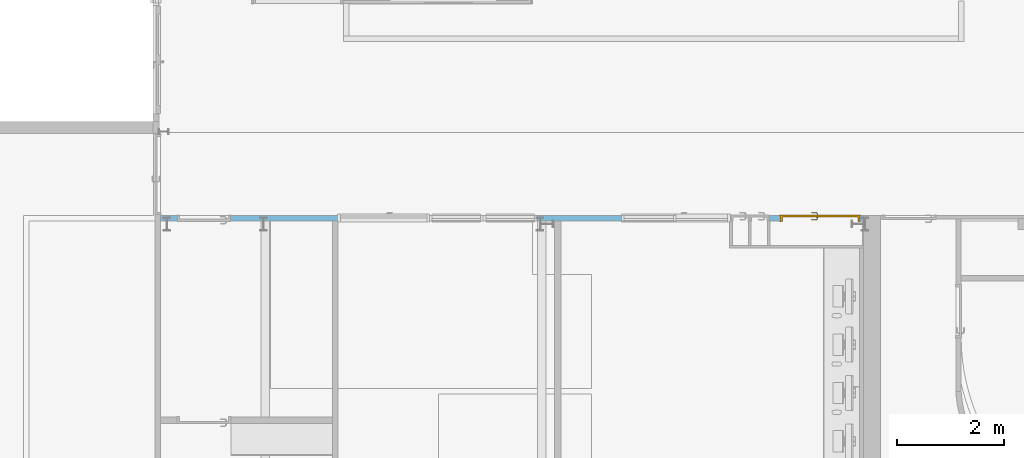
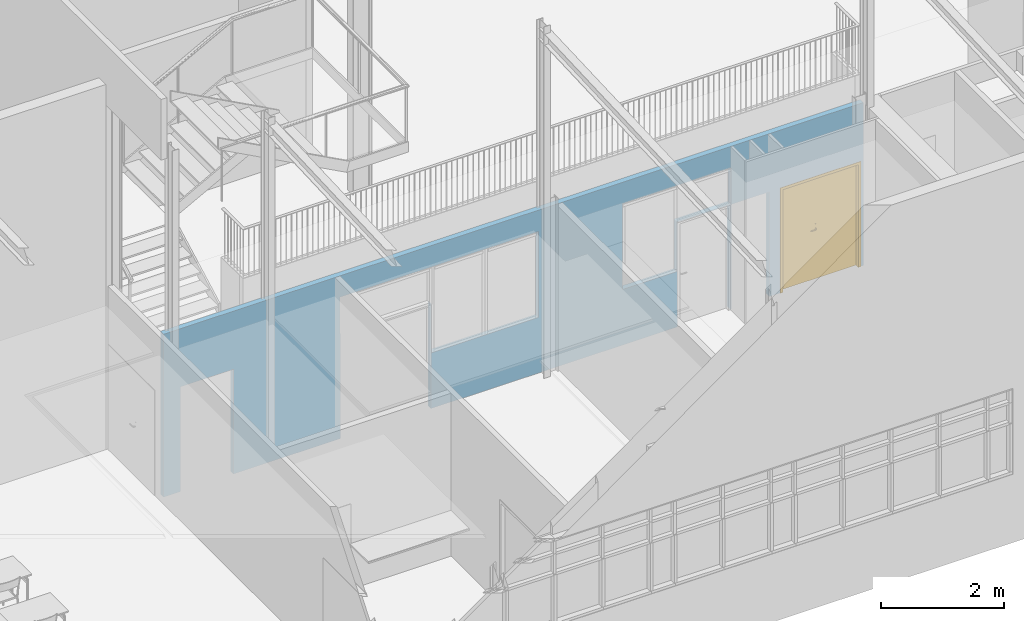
# One storey, part 38 of 137: 1 door, 10 openings, plus 1 element that does not belong to this part.
"""IFC2X3 building model written with IfcOpenShell, lengths in centimetres."""

from ifc_helpers import new_model, entity, si_unit, converted_unit, derived_unit, direction, frame, frame_2d, origin, place, context, subcontext, project, spatial, polyline, rectangle, outline, extrude, clip, bounded_halfspace, faceted_brep, source, transform, mapped, material, material_list, layer, layer_set, layer_usage, type_object, type_shapes, element, fill, save


model = new_model("IFC2X3")

# Units and contexts
model_context = context("Model", 3, precision=0.001, world=origin(), true_north=direction((6.12303176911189e-17, 1.0)))
body_context = subcontext(model_context, "Body", "Model", "MODEL_VIEW")
ifc_project = project(units=[si_unit("LENGTHUNIT", "METRE", prefix="CENTI"), si_unit("AREAUNIT", "SQUARE_METRE"), si_unit("VOLUMEUNIT", "CUBIC_METRE"), converted_unit("PLANEANGLEUNIT", "DEGREE", entity("IfcRatioMeasure", 0.0174532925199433), si_unit("PLANEANGLEUNIT", "RADIAN"), dimensions=[0, 0, 0, 0, 0, 0, 0]), si_unit("MASSUNIT", "GRAM", prefix="KILO"), si_unit("TIMEUNIT", "SECOND"), si_unit("FREQUENCYUNIT", "HERTZ"), si_unit("THERMODYNAMICTEMPERATUREUNIT", "DEGREE_CELSIUS"), derived_unit("THERMALTRANSMITTANCEUNIT", [(si_unit("MASSUNIT", "GRAM", prefix="KILO"), 1), (si_unit("THERMODYNAMICTEMPERATUREUNIT", "KELVIN"), -1), (si_unit("TIMEUNIT", "SECOND"), -3)]), derived_unit("VOLUMETRICFLOWRATEUNIT", [(si_unit("LENGTHUNIT", "METRE"), 3), (si_unit("TIMEUNIT", "SECOND"), -1)]), si_unit("ELECTRICCURRENTUNIT", "AMPERE"), si_unit("ELECTRICVOLTAGEUNIT", "VOLT"), si_unit("POWERUNIT", "WATT"), si_unit("FORCEUNIT", "NEWTON", prefix="KILO"), si_unit("ILLUMINANCEUNIT", "LUX"), si_unit("LUMINOUSFLUXUNIT", "LUMEN"), si_unit("LUMINOUSINTENSITYUNIT", "CANDELA"), derived_unit("USERDEFINED", [(si_unit("MASSUNIT", "GRAM", prefix="KILO"), -1), (si_unit("LENGTHUNIT", "METRE"), -2), (si_unit("TIMEUNIT", "SECOND"), 3), (si_unit("LUMINOUSFLUXUNIT", "LUMEN"), 1)]), derived_unit("LINEARVELOCITYUNIT", [(si_unit("LENGTHUNIT", "METRE"), 1), (si_unit("TIMEUNIT", "SECOND"), -1)]), si_unit("PRESSUREUNIT", "PASCAL"), derived_unit("USERDEFINED", [(si_unit("LENGTHUNIT", "METRE"), -2), (si_unit("MASSUNIT", "GRAM", prefix="KILO"), 1), (si_unit("TIMEUNIT", "SECOND"), -2)])], contexts=[model_context])

# Site, building, storey
site_placement = place(None, frame((8.62739174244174, -249.285249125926, 0.0)))
site = spatial("IfcSite", under=ifc_project, at=site_placement, Name="Default", CompositionType="ELEMENT")
building_placement = place(site_placement, origin())
building = spatial("IfcBuilding", under=site, at=building_placement, CompositionType="ELEMENT")
storey_placement = place(building_placement, origin())
storey = spatial("IfcBuildingStorey", under=building, at=storey_placement, Name="RDC", CompositionType="ELEMENT", Elevation=-8.82465566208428e-11)

# Wall, openings, door
ifc_material_1 = material(Name="Plâtre EXISTANT")
ifc_layer = layer(ifc_material_1, 10.0)
ifc_layer_set = layer_set([ifc_layer], Name="Mur de base:PLA EXISTANT 10")
ifc_layer_usage = layer_usage(ifc_layer_set, "AXIS2", "NEGATIVE", 5.0)
wall_type = type_object("IfcWallType", Name="Mur de base:PLA EXISTANT 10", PredefinedType="STANDARD", material=ifc_layer_set)
wall_placement = place(storey_placement, frame((2162.90482780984, 773.0, 0.0), z_axis=(0.0, 0.0, 1.0), x_axis=(-1.0, 0.0, 0.0)))
wall = element("IfcWallStandardCase", 1, at=wall_placement, inside=storey, type_object=wall_type, material=ifc_layer_usage, Name="Mur de base:PLA EXISTANT 10", ObjectType="Mur de base:PLA EXISTANT 10", context=body_context, shape_type="Clipping", body=[
    clip(extrude(rectangle(XDim=1308.9048278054, YDim=9.99999999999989, at=frame_2d((654.4524139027, -1.82076576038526e-14), x_axis=(-1.0, 0.0))), origin(), (0.0, 0.0, 1.0), 322.000000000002), bounded_halfspace(frame((0.0, -5.0, 322.0), z_axis=(0.0, 0.0, -1.0), x_axis=(1.0, 0.0, 0.0)), True, frame((0.0, -5.0, 322.0)), polyline([(0.0, 0.0), (1308.9048278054, 0.0), (1308.9048278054, 10.0), (988.9048278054, 10.0), (978.9048278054, 10.0), (574.90482780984, 10.0), (562.90482780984, 10.0), (249.0, 10.0), (244.0, 10.0), (214.0, 10.0), (209.0, 10.0), (179.0, 10.0), (174.0, 10.0), (0.0, 10.0), (0.0, 0.0)]))),
])
opening_1_placement = place(wall_placement, origin())
element("IfcOpeningElement", 2, at=opening_1_placement, cuts=wall, Name="Mur de base:PLA EXISTANT 10", ObjectType="Opening", context=body_context, shape_type="SweptSolid", body=[
    extrude(rectangle(XDim=72.9999999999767, YDim=171.0, at=frame_2d((0.0, 0.0), x_axis=(0.0, 1.0))), frame((893.500000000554, -20.2399999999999, 243.499999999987), z_axis=(0.0, 1.0, 0.0), x_axis=(-1.0, 0.0, 0.0)), (0.0, 0.0, 1.0), 40.48),
])
opening_2_placement = place(wall_placement, origin())
element("IfcOpeningElement", 3, at=opening_2_placement, cuts=wall, Name="Mur de base:PLA EXISTANT 10", ObjectType="Opening", context=body_context, shape_type="SweptSolid", body=[
    extrude(rectangle(XDim=170.0, YDim=100.0, at=frame_2d((0.0, -1.10134124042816e-13), x_axis=(1.0, 0.0))), frame((758.0, -20.2400000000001, 195.0), z_axis=(0.0, 1.0, 0.0), x_axis=(0.0, 0.0, 1.0)), (0.0, 0.0, 1.0), 40.48),
])
opening_3_placement = place(wall_placement, origin())
element("IfcOpeningElement", 4, at=opening_3_placement, cuts=wall, Name="Mur de base:PLA EXISTANT 10", ObjectType="Opening", context=body_context, shape_type="SweptSolid", body=[
    extrude(rectangle(XDim=170.0, YDim=100.0, at=frame_2d((0.0, -1.10134124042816e-13), x_axis=(1.0, 0.0))), frame((658.0, -20.2400000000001, 195.0), z_axis=(0.0, 1.0, 0.0), x_axis=(0.0, 0.0, 1.0)), (0.0, 0.0, 1.0), 40.48),
])
opening_4_placement = place(wall_placement, origin())
element("IfcOpeningElement", 5, at=opening_4_placement, cuts=wall, Name="Mur de base:PLA EXISTANT 10", ObjectType="Opening", context=body_context, shape_type="SweptSolid", body=[
    extrude(outline(polyline([(-101.666666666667, -89.3333333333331), (0.333333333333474, -89.3333333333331), (0.333333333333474, 8.66666666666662), (101.333333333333, 8.66666666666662), (101.333333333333, 80.6666666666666), (-101.666666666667, 80.6666666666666), (-101.666666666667, -89.3333333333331)])), frame((349.333333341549, -20.2400000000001, 199.333333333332), z_axis=(0.0, 1.0, 0.0), x_axis=(-1.0, 0.0, 0.0)), (0.0, 0.0, 1.0), 40.48),
])
opening_5_placement = place(wall_placement, frame((155.0, 5.0, 0.0)))
opening_5 = element("IfcOpeningElement", 6, at=opening_5_placement, cuts=wall, Name="Double(R)_bois_Existant_mu:143 x 204 cm:1", ObjectType="Opening", context=body_context, shape_type="SweptSolid", body=[
    extrude(rectangle(XDim=206.999999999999, YDim=149.0, at=frame_2d((103.499999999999, 74.5), x_axis=(1.0, 0.0))), frame((0.0, 0.0, 0.0), z_axis=(0.0, -1.0, 0.0), x_axis=(0.0, 0.0, 1.0)), (0.0, 0.0, 1.0), 10.0),
])
opening_6_placement = place(wall_placement, frame((978.0, 5.0, 0.0)))
element("IfcOpeningElement", 7, at=opening_6_placement, cuts=wall, Name="Double(R)_bois_Existant_mu:163 x 204 cm:1", ObjectType="Opening", context=body_context, shape_type="SweptSolid", body=[
    extrude(rectangle(XDim=206.999999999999, YDim=169.0, at=frame_2d((103.499999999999, 84.4999999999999), x_axis=(1.0, 0.0))), frame((0.0, 0.0, 0.0), z_axis=(0.0, -1.0, 0.0), x_axis=(0.0, 0.0, 1.0)), (0.0, 0.0, 1.0), 10.0),
])
opening_7_placement = place(wall_placement, frame((348.0, 5.0, 0.0)))
element("IfcOpeningElement", 8, at=opening_7_placement, cuts=wall, Name="Simple(R)_bois_Existant_mu:93 x 204 cm:1", ObjectType="Opening", context=body_context, shape_type="SweptSolid", body=[
    extrude(rectangle(XDim=206.999999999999, YDim=98.9999999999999, at=frame_2d((103.499999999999, 49.4999999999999), x_axis=(1.0, 0.0))), frame((0.0, 0.0, 0.0), z_axis=(0.0, -1.0, 0.0), x_axis=(0.0, 0.0, 1.0)), (0.0, 0.0, 1.0), 10.0),
])
opening_8_placement = place(wall_placement, frame((1178.49999999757, -5.0, 0.0)))
element("IfcOpeningElement", 9, at=opening_8_placement, cuts=wall, Name="Simple(R)_bois_Existant_mu:93 x 204 cm:1", ObjectType="Opening", context=body_context, shape_type="SweptSolid", body=[
    extrude(rectangle(XDim=206.999999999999, YDim=98.9999999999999, at=frame_2d((103.499999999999, 49.4999999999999), x_axis=(1.0, 0.0))), frame((0.0, 0.0, 0.0), z_axis=(0.0, 1.0, 0.0), x_axis=(0.0, 0.0, 1.0)), (0.0, 0.0, 1.0), 10.0),
])
opening_9_placement = place(wall_placement, frame((247.0, 5.0, 0.0)))
element("IfcOpeningElement", 10, at=opening_9_placement, cuts=wall, Name="Simple(R)_bois_Existant_mu:30 x 204 cm:1", ObjectType="Opening", context=body_context, shape_type="SweptSolid", body=[
    extrude(rectangle(XDim=206.999999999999, YDim=36.0, at=frame_2d((103.499999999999, 18.0000000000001), x_axis=(1.0, 0.0))), frame((0.0, 0.0, 0.0), z_axis=(0.0, -1.0, 0.0), x_axis=(0.0, 0.0, 1.0)), (0.0, 0.0, 1.0), 10.0),
])
opening_10_placement = place(wall_placement, frame((212.0, 5.0, 0.0)))
element("IfcOpeningElement", 11, at=opening_10_placement, cuts=wall, Name="Simple(R)_bois_Existant_mu:30 x 204 cm:1", ObjectType="Opening", context=body_context, shape_type="SweptSolid", body=[
    extrude(rectangle(XDim=206.999999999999, YDim=36.0, at=frame_2d((103.499999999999, 18.0000000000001), x_axis=(1.0, 0.0))), frame((0.0, 0.0, 0.0), z_axis=(0.0, -1.0, 0.0), x_axis=(0.0, 0.0, 1.0)), (0.0, 0.0, 1.0), 10.0),
])
ifc_material_2 = material(Name="Porte - Poignée")
ifc_material_3 = material(Name="Porte - Cadre")
ifc_material_4 = material(Name="Porte - Panneau")
ifc_material_list_1 = material_list([ifc_material_2, ifc_material_3, ifc_material_4])
ifc_material_list_2 = material_list([ifc_material_2, ifc_material_3, ifc_material_4])
door_style = type_object("IfcDoorStyle", Name="143 x 204 cm", ConstructionType="NOTDEFINED", OperationType="DOUBLE_DOOR_SINGLE_SWING", ParameterTakesPrecedence=False, Sizeable=False, material=ifc_material_list_2)
shared_shape = source(origin(), body_context, "Body", "Brep", [
    faceted_brep([(79.7974701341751, 3.69999999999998, 100.778044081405), (79.3999999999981, 3.69999999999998, 100.699999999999), (79.3999999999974, 3.69999999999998, 99.2999999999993), (79.7974701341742, 3.69999999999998, 99.2219559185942), (80.2025298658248, 3.69999999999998, 99.2219559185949), (80.6000000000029, 3.69999999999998, 99.3000000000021), (80.6000000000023, 3.69999999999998, 100.699999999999), (80.2025298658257, 3.69999999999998, 100.778044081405), (80.6000000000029, 5.94852045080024, 99.3000000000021), (80.6000000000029, 5.94852045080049, 100.699999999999), (80.2025298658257, 6.1131579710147, 100.778044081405), (81.5838906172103, 7.49451872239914, 100.778044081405), (81.4161093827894, 7.89957845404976, 100.778044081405), (79.7974701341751, 6.2809392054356, 100.778044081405), (90.5684749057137, 6.84673156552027, 100.778044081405), (90.8548953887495, 7.13315204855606, 100.778044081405), (90.0884689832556, 7.89957845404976, 100.778044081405), (89.9206877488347, 7.49451872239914, 100.778044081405), (79.3999999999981, 6.44557672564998, 100.699999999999), (79.3999999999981, 6.44557672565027, 99.2999999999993), (79.7974701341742, 6.28093920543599, 99.2219559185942), (81.416109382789, 7.8995784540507, 99.2219559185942), (81.5838906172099, 7.49451872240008, 99.2219559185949), (80.2025298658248, 6.11315797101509, 99.2219559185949), (90.8548953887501, 7.1331520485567, 99.2219559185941), (90.5684749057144, 6.84673156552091, 99.2219559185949), (89.9206877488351, 7.49451872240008, 99.2219559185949), (90.088468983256, 7.8995784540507, 99.2219559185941), (81.7485281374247, 7.09704858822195, 99.3000000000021), (81.7485281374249, 7.09704858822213, 100.699999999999), (81.2514718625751, 8.29704858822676, 100.699999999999), (81.2514718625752, 8.29704858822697, 99.2999999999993), (85.7522904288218, 7.09704858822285, 99.3000000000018), (89.7560502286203, 7.09704858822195, 99.3000000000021), (89.7560502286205, 7.09704858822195, 100.699999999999), (85.7522891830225, 7.09704858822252, 100.699999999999), (85.7522891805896, 7.71249275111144, 100.787811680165), (90.2531065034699, 8.29704858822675, 100.699999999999), (86.260057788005, 8.29704858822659, 100.699999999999), (90.2531065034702, 8.29704858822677, 99.2999999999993), (85.2445206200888, 8.29704858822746, 99.2999999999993), (85.7522892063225, 7.71249274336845, 99.2121883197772), (90.2874210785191, 6.56567773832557, 99.3000000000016), (91.1359492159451, 7.41420587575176, 99.2999999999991), (91.1359492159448, 7.4142058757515, 100.699999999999), (90.2874210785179, 6.5656777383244, 100.699999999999)], [[[0, 1, 2, 3, 4, 5, 6, 7]], [[6, 5, 8, 9]], [[9, 10, 7, 6]], [[10, 11, 12, 13, 0, 7]], [[14, 15, 16, 17]], [[13, 18, 1, 0]], [[2, 1, 18, 19]], [[19, 20, 3, 2]], [[20, 21, 22, 23, 4, 3]], [[24, 25, 26, 27]], [[23, 8, 5, 4]], [[9, 8, 28, 29]], [[29, 11, 10, 9]], [[12, 30, 18, 13]], [[19, 18, 30, 31]], [[31, 21, 20, 19]], [[22, 28, 8, 23]], [[29, 28, 32, 33, 34, 35]], [[11, 35, 36]], [[16, 37, 38]], [[30, 12, 38]], [[38, 12, 36]], [[36, 35, 17]], [[17, 16, 36]], [[35, 11, 29]], [[34, 17, 35]], [[11, 36, 12]], [[38, 36, 16]], [[31, 30, 38, 37, 39, 40]], [[40, 41, 21]], [[41, 40, 27]], [[21, 31, 40]], [[39, 27, 40]], [[41, 32, 22]], [[22, 21, 41]], [[26, 32, 41]], [[28, 22, 32]], [[32, 26, 33]], [[26, 41, 27]], [[42, 25, 24, 43, 44, 15, 14, 45]], [[34, 33, 42, 45]], [[45, 14, 17, 34]], [[15, 44, 37, 16]], [[39, 37, 44, 43]], [[43, 24, 27, 39]], [[25, 42, 33, 26]]]),
    faceted_brep([(79.7974701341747, -1.30000000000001, 100.778044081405), (80.2025298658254, -1.30000000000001, 100.778044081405), (80.6000000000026, -1.30000000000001, 100.699999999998), (80.600000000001, -1.30000000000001, 99.3000000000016), (80.2025298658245, -1.30000000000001, 99.2219559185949), (79.7974701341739, -1.30000000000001, 99.2219559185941), (79.3999999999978, -1.30000000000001, 99.2999999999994), (79.3999999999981, -1.30000000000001, 100.699999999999), (79.3999999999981, -4.06509507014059, 100.699999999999), (79.7974701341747, -3.90045754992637, 100.778044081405), (81.4023585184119, -5.50534593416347, 100.778044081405), (81.5701397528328, -5.10028620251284, 100.778044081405), (80.2025298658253, -3.73267631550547, 100.778044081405), (90.8521810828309, -4.73891952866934, 100.778044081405), (90.5657605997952, -4.4524990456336, 100.778044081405), (89.917973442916, -5.10028620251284, 100.778044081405), (90.0857546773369, -5.50534593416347, 100.778044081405), (80.6000000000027, -3.56803879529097, 100.699999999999), (80.6000000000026, -3.56803879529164, 99.3000000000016), (80.2025298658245, -3.7326763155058, 99.2219559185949), (81.5701397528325, -5.10028620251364, 99.2219559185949), (81.4023585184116, -5.50534593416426, 99.2219559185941), (79.7974701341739, -3.9004575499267, 99.2219559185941), (90.5657605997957, -4.45249904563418, 99.2219559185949), (90.8521810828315, -4.73891952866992, 99.2219559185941), (90.0857546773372, -5.50534593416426, 99.2219559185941), (89.9179734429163, -5.10028620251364, 99.2219559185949), (79.3999999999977, -4.06509507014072, 99.2999999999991), (81.2377209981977, -5.90281606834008, 100.699999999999), (81.7347772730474, -4.70281606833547, 100.699999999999), (81.7347772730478, -4.70281606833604, 99.3000000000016), (81.2377209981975, -5.90281606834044, 99.2999999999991), (85.2307697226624, -5.90281606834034, 100.699999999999), (85.7440566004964, -5.31828027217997, 100.787811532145), (90.2503921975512, -5.90281606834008, 100.699999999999), (85.7440565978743, -4.70281606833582, 100.699999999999), (89.7533359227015, -4.70281606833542, 100.699999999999), (89.7533359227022, -4.70281606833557, 99.3000000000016), (85.7440563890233, -4.70281606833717, 99.3000000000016), (85.7440565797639, -5.31828027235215, 99.2121884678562), (90.2503921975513, -5.90281606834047, 99.2999999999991), (86.2573433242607, -5.90281606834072, 99.2999999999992), (90.2847067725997, -4.1714452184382, 100.699999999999), (91.1332349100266, -5.01997335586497, 100.699999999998), (91.133234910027, -5.01997335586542, 99.2999999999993), (90.2847067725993, -4.17144521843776, 99.3000000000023)], [[[0, 1, 2, 3, 4, 5, 6, 7]], [[8, 9, 0, 7]], [[9, 10, 11, 12, 1, 0]], [[13, 14, 15, 16]], [[12, 17, 2, 1]], [[3, 2, 17, 18]], [[18, 19, 4, 3]], [[19, 20, 21, 22, 5, 4]], [[23, 24, 25, 26]], [[22, 27, 6, 5]], [[7, 6, 27, 8]], [[28, 10, 9, 8]], [[11, 29, 17, 12]], [[18, 17, 29, 30]], [[30, 20, 19, 18]], [[21, 31, 27, 22]], [[8, 27, 31, 28]], [[32, 33, 10]], [[33, 32, 16]], [[10, 28, 32]], [[34, 16, 32]], [[33, 35, 11]], [[11, 10, 33]], [[15, 35, 33]], [[29, 11, 35]], [[35, 15, 36]], [[15, 33, 16]], [[30, 29, 35, 36, 37, 38]], [[20, 38, 39]], [[25, 40, 41]], [[31, 21, 41]], [[41, 21, 39]], [[39, 38, 26]], [[26, 25, 39]], [[38, 20, 30]], [[37, 26, 38]], [[20, 39, 21]], [[41, 39, 25]], [[28, 31, 41, 40, 34, 32]], [[42, 14, 13, 43, 44, 24, 23, 45]], [[43, 13, 16, 34]], [[14, 42, 36, 15]], [[37, 36, 42, 45]], [[45, 23, 26, 37]], [[24, 44, 40, 25]], [[34, 40, 44, 43]]]),
    faceted_brep([(81.0352761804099, 3.19999999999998, 86.6003983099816), (82.0, 3.19999999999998, 87.0), (82.0, 3.19999999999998, 108.0), (81.0352761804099, 3.19999999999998, 108.399601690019), (80.0, 3.19999999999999, 108.535898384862), (78.9647238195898, 3.19999999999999, 108.399601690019), (78.0, 3.19999999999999, 108.0), (78.0, 3.19999999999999, 87.0), (78.9647238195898, 3.19999999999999, 86.6003983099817), (80.0, 3.19999999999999, 86.4641016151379), (81.0352761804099, 3.69999999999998, 108.399601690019), (82.0, 3.69999999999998, 108.0), (82.0, 3.69999999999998, 87.0), (81.0352761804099, 3.69999999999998, 86.6003983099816), (80.0, 3.69999999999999, 86.4641016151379), (78.9647238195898, 3.69999999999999, 86.6003983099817), (78.0, 3.69999999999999, 87.0), (78.0, 3.69999999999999, 108.0), (78.9647238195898, 3.69999999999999, 108.399601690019), (80.0, 3.69999999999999, 108.535898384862)], [[[0, 1, 2, 3, 4, 5, 6, 7, 8, 9]], [[10, 11, 12, 13, 14, 15, 16, 17, 18, 19]], [[11, 10, 3, 2]], [[3, 10, 19, 4]], [[19, 18, 5, 4]], [[18, 17, 6, 5]], [[7, 6, 17, 16]], [[16, 15, 8, 7]], [[8, 15, 14, 9]], [[14, 13, 0, 9]], [[13, 12, 1, 0]], [[2, 1, 12, 11]]]),
    faceted_brep([(81.0352761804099, -1.30000000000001, 86.6003983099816), (82.0, -1.30000000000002, 87.0), (82.0, -1.30000000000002, 108.0), (81.0352761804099, -1.30000000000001, 108.399601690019), (80.0, -1.30000000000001, 108.535898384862), (78.9647238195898, -1.30000000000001, 108.399601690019), (78.0, -1.3, 108.0), (78.0, -1.3, 87.0), (78.9647238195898, -1.30000000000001, 86.6003983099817), (80.0, -1.30000000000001, 86.4641016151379), (81.0352761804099, -0.800000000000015, 108.399601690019), (82.0, -0.800000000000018, 108.0), (82.0, -0.800000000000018, 87.0), (81.0352761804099, -0.800000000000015, 86.6003983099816), (80.0, -0.800000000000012, 86.4641016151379), (78.9647238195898, -0.800000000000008, 86.6003983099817), (78.0, -0.800000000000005, 87.0), (78.0, -0.800000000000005, 108.0), (78.9647238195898, -0.800000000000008, 108.399601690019), (80.0, -0.800000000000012, 108.535898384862)], [[[0, 1, 2, 3, 4, 5, 6, 7, 8, 9]], [[10, 11, 12, 13, 14, 15, 16, 17, 18, 19]], [[16, 15, 8, 7]], [[8, 15, 14, 9]], [[14, 13, 0, 9]], [[13, 12, 1, 0]], [[2, 1, 12, 11]], [[11, 10, 3, 2]], [[3, 10, 19, 4]], [[19, 18, 5, 4]], [[18, 17, 6, 5]], [[7, 6, 17, 16]]]),
    faceted_brep([(0.0, 0.0, 0.0), (0.0, 10.0, 0.0), (-1.0, 10.0, 0.0), (-1.0, 10.8000000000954, 0.0), (4.0, 10.8000000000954, 0.0), (4.0, 3.2, 0.0), (3.0, 3.2, 0.0), (3.0, -0.799999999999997, 0.0), (-1.0, -0.799999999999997, 0.0), (-1.0, 0.0, 0.0), (0.0, 0.0, 207.0), (0.0, 10.0, 207.0), (149.0, 10.0, 207.0), (149.0, 10.0, 0.0), (150.0, 10.0, 0.0), (150.0, 10.0, 208.0), (-1.0, 10.0, 208.0), (-1.0, 10.8000000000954, 208.0), (150.0, 10.8000000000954, 208.0), (150.0, 10.8000000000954, 0.0), (145.0, 10.8000000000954, 0.0), (145.0, 10.8000000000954, 203.0), (4.0, 10.8000000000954, 203.0), (4.0, 3.2, 203.0), (145.0, 3.2, 203.0), (145.0, 3.2, 0.0), (146.0, 3.2, 0.0), (146.0, 3.2, 204.0), (3.0, 3.2, 204.0), (3.0, -0.799999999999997, 204.0), (146.0, -0.799999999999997, 204.0), (146.0, -0.799999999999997, 0.0), (150.0, -0.799999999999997, 0.0), (150.0, -0.799999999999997, 208.0), (-1.0, -0.799999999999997, 208.0), (-1.0, 0.0, 208.0), (150.0, 0.0, 208.0), (150.0, 0.0, 0.0), (149.0, 0.0, 0.0), (149.0, 0.0, 207.0)], [[[0, 1, 2, 3, 4, 5, 6, 7, 8, 9]], [[1, 0, 10, 11]], [[2, 1, 11, 12, 13, 14, 15, 16]], [[3, 2, 16, 17]], [[4, 3, 17, 18, 19, 20, 21, 22]], [[5, 4, 22, 23]], [[6, 5, 23, 24, 25, 26, 27, 28]], [[7, 6, 28, 29]], [[8, 7, 29, 30, 31, 32, 33, 34]], [[9, 8, 34, 35]], [[0, 9, 35, 36, 37, 38, 39, 10]], [[12, 39, 38, 13]], [[38, 37, 32, 31, 26, 25, 20, 19, 14, 13]], [[18, 15, 14, 19]], [[24, 21, 20, 25]], [[30, 27, 26, 31]], [[36, 33, 32, 37]], [[11, 10, 39, 12]], [[17, 16, 15, 18]], [[23, 22, 21, 24]], [[29, 28, 27, 30]], [[35, 34, 33, 36]]]),
    faceted_brep([(146.0, -0.799999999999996, 0.0), (146.0, -0.799999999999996, 204.0), (74.4999999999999, -0.799999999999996, 204.0), (74.4999999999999, -0.799999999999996, 0.0), (146.0, 3.2, 0.0), (74.4999999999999, 3.2, 0.0), (74.4999999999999, 3.2, 204.0), (146.0, 3.2, 204.0)], [[[0, 1, 2, 3]], [[4, 5, 6, 7]], [[1, 0, 4, 7]], [[2, 1, 7, 6]], [[3, 2, 6, 5]], [[0, 3, 5, 4]]]),
    faceted_brep([(3.0, -0.799999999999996, 204.0), (3.0, -0.799999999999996, 0.0), (74.4999999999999, -0.799999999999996, 0.0), (74.4999999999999, -0.799999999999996, 204.0), (3.0, 3.2, 204.0), (74.4999999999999, 3.2, 204.0), (74.4999999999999, 3.2, 0.0), (3.0, 3.2, 0.0)], [[[0, 1, 2, 3]], [[4, 5, 6, 7]], [[1, 0, 4, 7]], [[2, 1, 7, 6]], [[3, 2, 6, 5]], [[0, 3, 5, 4]]]),
])
type_shapes(door_style, [shared_shape])
door_placement = place(opening_5_placement, frame((-149.0, -10.0, 0.0)))
door = element("IfcDoor", 12, at=door_placement, inside=storey, type_object=door_style, material=ifc_material_list_1, Name="Double(R)_bois_Existant_mu:143 x 204 cm", ObjectType="143 x 204 cm", OverallHeight=206.999999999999, OverallWidth=149.0, context=body_context, shape_type="MappedRepresentation", body=[
    mapped(shared_shape, transform((0.0, 0.0, 0.0), scale=1.0)),
])
fill(opening_5, door)

save(model, "model.ifc")
